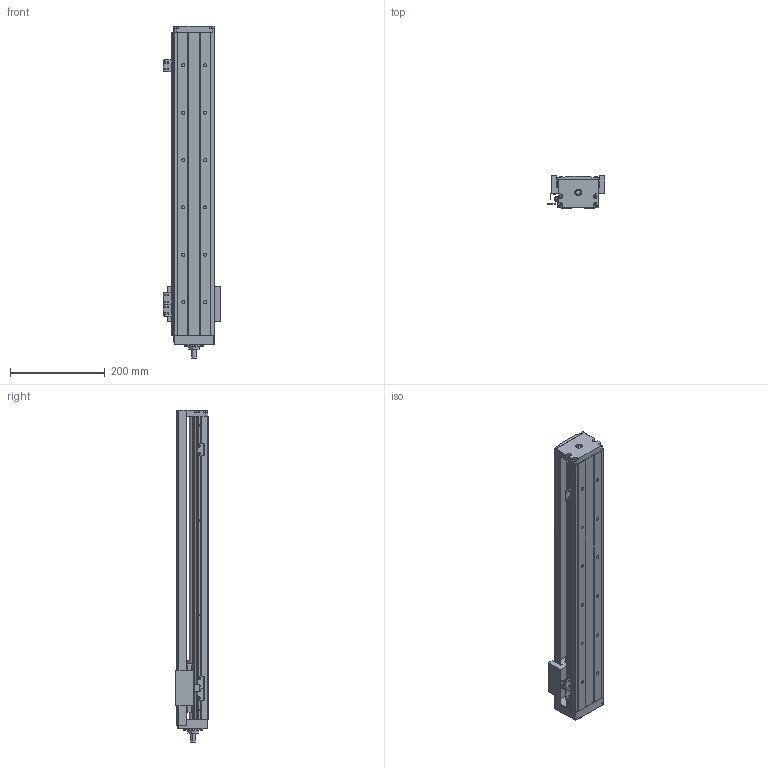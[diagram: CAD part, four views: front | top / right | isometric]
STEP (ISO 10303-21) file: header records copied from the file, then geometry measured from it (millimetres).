
FILE_DESCRIPTION (( 'STEP AP203' ), '1' );
FILE_NAME ('KH8610C-640A1-H0CS0-Z1.STEP', '2022-04-20T11:32:15', ( 'CXY' ), ( 'BT' ), 'SwSTEP 2.0', 'SolidWorks 2016', '' );
FILE_SCHEMA (( 'CONFIG_CONTROL_DESIGN' ));
Length unit declared in the file: millimetre
Products named in the file (15): KK60-08-01; KH8610C-640A1-H0CS0-Z1; KK86-06-02（M12X1.0）; KH86-A1; 86賑輸; KH86-憤癹寢耋; KH86-H0; 囀鞠褒す埴芛蹟隊M3℅4; KH86-01-640; KH86-綴釱_KK86-05-01; 鞠褒蹟譫M3; KK86-蛌諉釱; 囀鞠褒す埴芛蹟隊M4℅10; KH86-04-05-02; 囀鞠褒す埴芛蹟隊M3℅5
Assembly tree (27 placements, depth 3):
  KH8610C-640A1-H0CS0-Z1
    KH86-01-640
    KH86-A1
      86賑輸
      KK86-蛌諉釱
    KH86-綴釱_KK86-05-01
    囀鞠褒す埴芛蹟隊M4℅10  x4
    KH86-04-05-02
    囀鞠褒す埴芛蹟隊M3℅5  x2
    KK60-08-01  x3
    KK86-06-02（M12X1.0）
    KH86-憤癹寢耋
    KH86-H0
    囀鞠褒す埴芛蹟隊M3℅4  x6
    鞠褒蹟譫M3  x3
Bounding box: 121 x 68 x 701 mm (x, y, z)
Volume: 1810514.1 mm3; surface area: 493226.4 mm2
Topology: 28 solids, 28 shells, 1265 faces, 3150 edges, 1954 vertices
Faces by surface type: plane 494, cylinder 385, cone 276, bspline 62, torus 24, sphere 24
Entity records: 32657 total; most frequent: CARTESIAN_POINT 9035, ORIENTED_EDGE 4534, DIRECTION 4418, EDGE_CURVE 2267, AXIS2_PLACEMENT_3D 1568, VERTEX_POINT 1473, VECTOR 1282, LINE 1282
